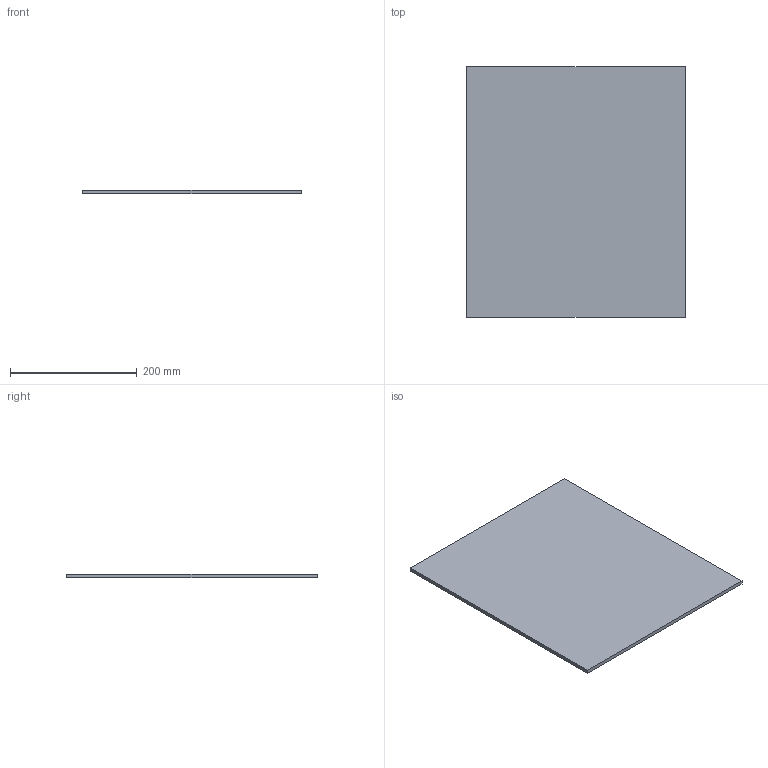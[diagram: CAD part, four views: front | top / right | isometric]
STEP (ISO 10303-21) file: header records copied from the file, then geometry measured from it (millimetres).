
FILE_DESCRIPTION (( 'STEP AP214' ), '1' );
FILE_NAME ('BR1011-6x346x396.STEP', '2021-06-28T09:47:03', ( '' ), ( '' ), 'SwSTEP 2.0', 'SolidWorks 2018', '' );
FILE_SCHEMA (( 'AUTOMOTIVE_DESIGN' ));
Length unit declared in the file: millimetre
Products named in the file (1): BR1011-6x346x396
Bounding box: 346 x 396 x 6 mm (x, y, z)
Volume: 822096 mm3; surface area: 282936 mm2
Topology: 1 solids, 1 shells, 6 faces, 12 edges, 8 vertices
Faces by surface type: plane 6
Entity records: 190 total; most frequent: CARTESIAN_POINT 27, DIRECTION 26, ORIENTED_EDGE 24, LINE 12, VECTOR 12, EDGE_CURVE 12, VERTEX_POINT 8, AXIS2_PLACEMENT_3D 7
